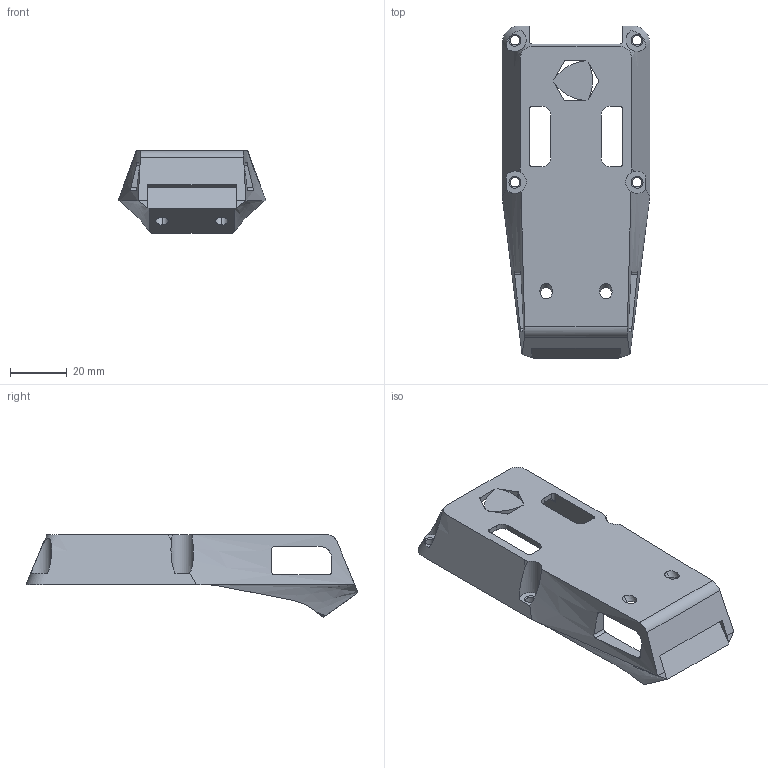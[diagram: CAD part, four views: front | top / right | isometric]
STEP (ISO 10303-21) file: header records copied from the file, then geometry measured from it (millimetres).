
FILE_DESCRIPTION (( 'STEP AP214' ), '1' );
FILE_NAME ('Gripper Finger Mount for WSG 050-110.STEP', '2021-05-07T20:58:31', ( '' ), ( '' ), 'SwSTEP 2.0', 'SolidWorks 2020', '' );
FILE_SCHEMA (( 'AUTOMOTIVE_DESIGN' ));
Length unit declared in the file: millimetre
Products named in the file (1): Gripper Finger Mount for WSG 050-110
Bounding box: 52 x 116.86 x 29.07 mm (x, y, z)
Volume: 30255 mm3; surface area: 19401.9 mm2
Topology: 1 solids, 1 shells, 135 faces, 388 edges, 254 vertices
Faces by surface type: cylinder 64, plane 46, cone 18, bspline 7
Entity records: 5280 total; most frequent: CARTESIAN_POINT 1748, ORIENTED_EDGE 776, DIRECTION 675, EDGE_CURVE 388, VERTEX_POINT 254, AXIS2_PLACEMENT_3D 244, LINE 187, VECTOR 187
